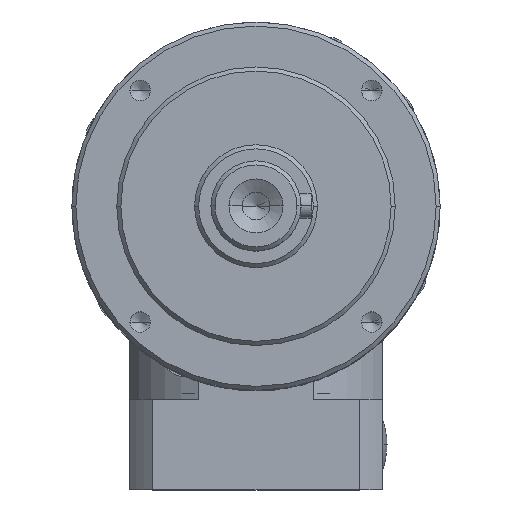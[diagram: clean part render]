
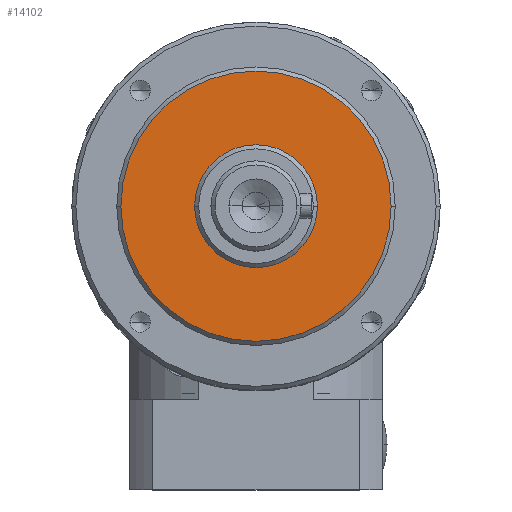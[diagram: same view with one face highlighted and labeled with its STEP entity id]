
A CAD part, top view. The second image highlights one B-rep face of the part: STEP entity #14102.
In plain terms, the highlighted planar face has unit normal (0, 0, 1).
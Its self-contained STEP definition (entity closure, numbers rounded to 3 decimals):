
#249 = ORIENTED_EDGE ( 'NONE', *, *, #10793, .T. ) ;
#352 = AXIS2_PLACEMENT_3D ( 'NONE', #4542, #13039, #10386 ) ;
#619 = CARTESIAN_POINT ( 'NONE',  ( -37.939, 16.981, 79.25 ) ) ;
#727 = VERTEX_POINT ( 'NONE', #11754 ) ;
#1017 = DIRECTION ( 'NONE',  ( 0., 0., 1. ) ) ;
#1871 = DIRECTION ( 'NONE',  ( 0., 0., 1. ) ) ;
#2374 = CARTESIAN_POINT ( 'NONE',  ( -70.939, 16.981, 79.25 ) ) ;
#2461 = FACE_OUTER_BOUND ( 'NONE', #3432, .T. ) ;
#3171 = CIRCLE ( 'NONE', #8678, 33. ) ;
#3194 = DIRECTION ( 'NONE',  ( 1., 0., 0. ) ) ;
#3432 = EDGE_LOOP ( 'NONE', ( #15162, #249 ) ) ;
#3648 = VERTEX_POINT ( 'NONE', #16088 ) ;
#4339 = DIRECTION ( 'NONE',  ( 0., 0., 1. ) ) ;
#4542 = CARTESIAN_POINT ( 'NONE',  ( -37.939, 16.981, 79.25 ) ) ;
#5355 = AXIS2_PLACEMENT_3D ( 'NONE', #14097, #1017, #14195 ) ;
#6182 = VERTEX_POINT ( 'NONE', #2374 ) ;
#7421 = ORIENTED_EDGE ( 'NONE', *, *, #9768, .F. ) ;
#7496 = DIRECTION ( 'NONE',  ( 0., 0., 1. ) ) ;
#7713 = EDGE_CURVE ( 'NONE', #6182, #727, #16231, .T. ) ;
#8290 = FACE_BOUND ( 'NONE', #15956, .T. ) ;
#8455 = CIRCLE ( 'NONE', #10915, 15. ) ;
#8678 = AXIS2_PLACEMENT_3D ( 'NONE', #18108, #1871, #13793 ) ;
#9768 = EDGE_CURVE ( 'NONE', #3648, #13367, #12382, .T. ) ;
#9913 = PLANE ( 'NONE',  #5355 ) ;
#10386 = DIRECTION ( 'NONE',  ( 1., 0., 0. ) ) ;
#10793 = EDGE_CURVE ( 'NONE', #727, #6182, #3171, .T. ) ;
#10915 = AXIS2_PLACEMENT_3D ( 'NONE', #16287, #4339, #3194 ) ;
#11754 = CARTESIAN_POINT ( 'NONE',  ( -4.939, 16.981, 79.25 ) ) ;
#12382 = CIRCLE ( 'NONE', #12706, 15. ) ;
#12706 = AXIS2_PLACEMENT_3D ( 'NONE', #619, #7496, #16294 ) ;
#13039 = DIRECTION ( 'NONE',  ( 0., 0., 1. ) ) ;
#13367 = VERTEX_POINT ( 'NONE', #13469 ) ;
#13469 = CARTESIAN_POINT ( 'NONE',  ( -22.939, 16.981, 79.25 ) ) ;
#13793 = DIRECTION ( 'NONE',  ( 1., 0., 0. ) ) ;
#14097 = CARTESIAN_POINT ( 'NONE',  ( -37.939, 16.981, 79.25 ) ) ;
#14102 = ADVANCED_FACE ( 'NONE', ( #2461, #8290 ), #9913, .T. ) ;
#14195 = DIRECTION ( 'NONE',  ( 1., 0., 0. ) ) ;
#15162 = ORIENTED_EDGE ( 'NONE', *, *, #7713, .T. ) ;
#15645 = EDGE_CURVE ( 'NONE', #13367, #3648, #8455, .T. ) ;
#15956 = EDGE_LOOP ( 'NONE', ( #7421, #16881 ) ) ;
#16088 = CARTESIAN_POINT ( 'NONE',  ( -52.939, 16.981, 79.25 ) ) ;
#16231 = CIRCLE ( 'NONE', #352, 33. ) ;
#16287 = CARTESIAN_POINT ( 'NONE',  ( -37.939, 16.981, 79.25 ) ) ;
#16294 = DIRECTION ( 'NONE',  ( 1., 0., 0. ) ) ;
#16881 = ORIENTED_EDGE ( 'NONE', *, *, #15645, .F. ) ;
#18108 = CARTESIAN_POINT ( 'NONE',  ( -37.939, 16.981, 79.25 ) ) ;
